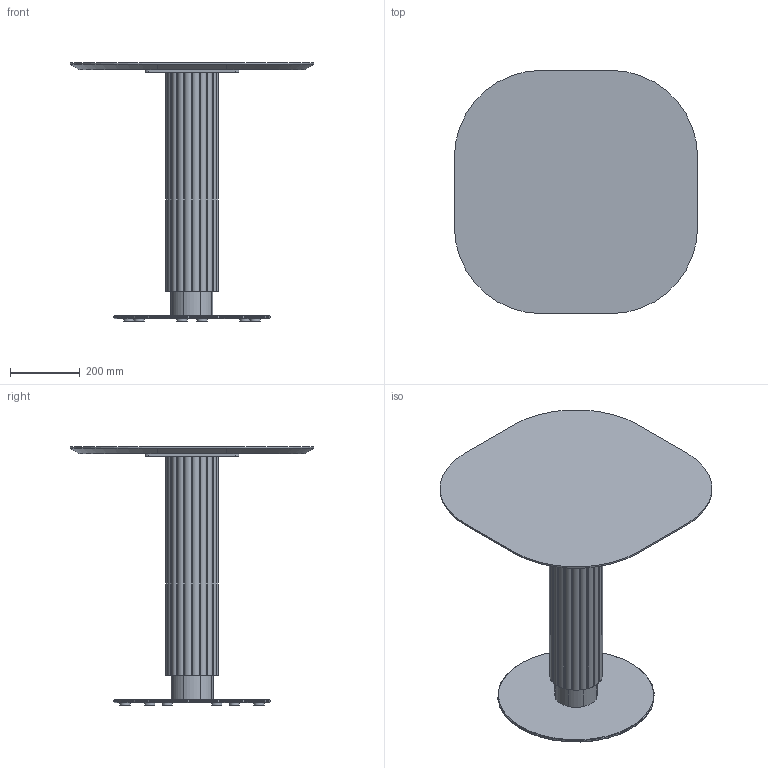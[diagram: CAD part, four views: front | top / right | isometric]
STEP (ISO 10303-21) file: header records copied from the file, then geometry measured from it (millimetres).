
FILE_DESCRIPTION( ('This file contains a STEP AP42 implementation' ,'as created by ZW3D STEP Interface translator.') ,'2;1' );
FILE_NAME( 'Godron - B_Rond - F2 - M5 - 700 x 700 x 750.stp' ,'24 912.12 622', (''), ('ZWCAD Software Co.'), 'Version 1.0', 'ZW3D to STEP translator', '' );
FILE_SCHEMA(('AUTOMOTIVE_DESIGN { 1 0 10303 214 1 1 1 1 }'));
Length unit declared in the file: millimetre
Products named in the file (15): 0; PIED BISTROT PARAMETRIQUE_; SOCLE ACIER C Ø450 V.02_; SCL-D450-02_; PLA-R30A-01_; PLA-R30A-01; CROIX ACIER 370 V.02_; CRX-X370-02_; COLONNE ACIER Ø48.5 V.02_; TUB-D048-02_; PLA-R48A-01_; Colonne GODRON H700_; WUERTH 0276063020 Euro-screw 6.3x2 Verzinkt_; PLATEAU BISTROT PARAMETRIQUE_; insert_m6_13_
Assembly tree (25 placements, depth 3):
  0
  PIED BISTROT PARAMETRIQUE_
    SOCLE ACIER C Ø450 V.02_
      SCL-D450-02_
      PLA-R30A-01_
      PLA-R30A-01  x5
    CROIX ACIER 370 V.02_
      CRX-X370-02_
    COLONNE ACIER Ø48.5 V.02_
      TUB-D048-02_
      PLA-R48A-01_  x2
    Colonne GODRON H700_
    WUERTH 0276063020 Euro-screw 6.3x2 Verzinkt_
    PLATEAU BISTROT PARAMETRIQUE_
      insert_m6_13_  x8
Bounding box: 700 x 700 x 744 mm (x, y, z)
Volume: 20615956.9 mm3; surface area: 2643346.9 mm2
Topology: 29 solids, 29 shells, 648 faces, 1609 edges, 1034 vertices
Faces by surface type: plane 290, cylinder 193, bspline 121, cone 43, torus 1
Full cylindrical faces by diameter (mm): 4.88 x1, 6 x8, 6.3 x1, 8 x47, 12 x2, 14 x2, 30 x6, 44.5 x3, 48.5 x1, 450 x1
Entity records: 16030 total; most frequent: CARTESIAN_POINT 4007, DIRECTION 2213, ORIENTED_EDGE 2208, EDGE_CURVE 1104, AXIS2_PLACEMENT_3D 788, VERTEX_POINT 720, VECTOR 637, LINE 637
